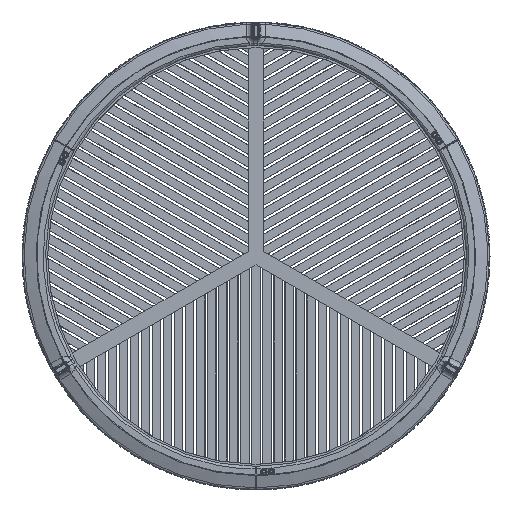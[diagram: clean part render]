
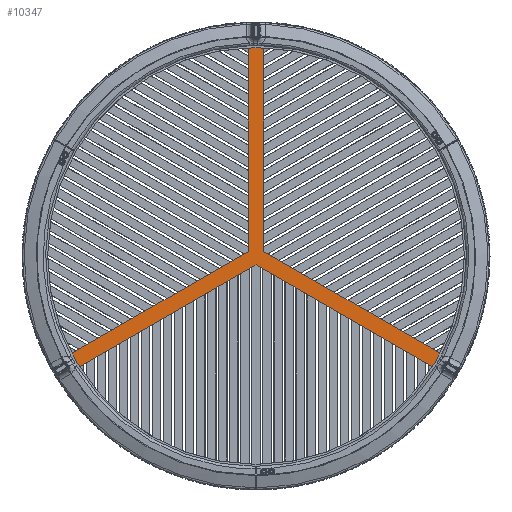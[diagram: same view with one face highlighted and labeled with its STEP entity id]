
A CAD part, front view. The second image highlights one B-rep face of the part: STEP entity #10347.
In plain terms, the highlighted planar face has unit normal (0, -1, 0).
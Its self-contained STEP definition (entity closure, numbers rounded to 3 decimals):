
#236 = VERTEX_POINT ( 'NONE', #186245 ) ;
#3855 = CARTESIAN_POINT ( 'NONE',  ( -354.686, -5., -187.458 ) ) ;
#3922 = LINE ( 'NONE', #68158, #17964 ) ;
#4316 = CIRCLE ( 'NONE', #98393, 401.177 ) ;
#7028 = DIRECTION ( 'NONE',  ( 0.866, 0., -0.5 ) ) ;
#7886 = PLANE ( 'NONE',  #57065 ) ;
#10347 = ADVANCED_FACE ( 'NONE', ( #58433 ), #7886, .F. ) ;
#11666 = CARTESIAN_POINT ( 'NONE',  ( 15., -5., 0. ) ) ;
#13633 = VERTEX_POINT ( 'NONE', #14274 ) ;
#14274 = CARTESIAN_POINT ( 'NONE',  ( 339.686, -5., -213.438 ) ) ;
#14979 = EDGE_CURVE ( 'NONE', #87675, #136651, #168410, .T. ) ;
#15134 = EDGE_LOOP ( 'NONE', ( #122606, #71100, #159287, #208068, #40295, #53963, #164230, #29310, #172118, #44665 ) ) ;
#17964 = VECTOR ( 'NONE', #7028, 1000. ) ;
#20699 = VECTOR ( 'NONE', #204023, 1000. ) ;
#22324 = LINE ( 'NONE', #104363, #174081 ) ;
#27345 = CARTESIAN_POINT ( 'NONE',  ( 7.5, -5., -12.99 ) ) ;
#29218 = CARTESIAN_POINT ( 'NONE',  ( -7.5, -5., 12.99 ) ) ;
#29310 = ORIENTED_EDGE ( 'NONE', *, *, #33080, .T. ) ;
#33080 = EDGE_CURVE ( 'NONE', #67874, #149686, #42253, .T. ) ;
#33420 = DIRECTION ( 'NONE',  ( 0., -1., 0. ) ) ;
#40295 = ORIENTED_EDGE ( 'NONE', *, *, #69776, .F. ) ;
#42253 = CIRCLE ( 'NONE', #82107, 401.177 ) ;
#44665 = ORIENTED_EDGE ( 'NONE', *, *, #70340, .T. ) ;
#46964 = VERTEX_POINT ( 'NONE', #68825 ) ;
#51936 = CARTESIAN_POINT ( 'NONE',  ( -15., -5., 400.896 ) ) ;
#53963 = ORIENTED_EDGE ( 'NONE', *, *, #14979, .T. ) ;
#57065 = AXIS2_PLACEMENT_3D ( 'NONE', #122557, #155116, #186685 ) ;
#58433 = FACE_OUTER_BOUND ( 'NONE', #15134, .T. ) ;
#67874 = VERTEX_POINT ( 'NONE', #148176 ) ;
#68158 = CARTESIAN_POINT ( 'NONE',  ( -7.5, -5., -12.99 ) ) ;
#68825 = CARTESIAN_POINT ( 'NONE',  ( -15., -5., 8.66 ) ) ;
#69776 = EDGE_CURVE ( 'NONE', #87675, #202183, #98509, .T. ) ;
#70340 = EDGE_CURVE ( 'NONE', #46964, #153880, #107073, .T. ) ;
#71100 = ORIENTED_EDGE ( 'NONE', *, *, #106060, .F. ) ;
#73881 = DIRECTION ( 'NONE',  ( 0., 0., 1. ) ) ;
#75243 = DIRECTION ( 'NONE',  ( 0., -1., 0. ) ) ;
#81980 = CARTESIAN_POINT ( 'NONE',  ( 15., -5., 400.896 ) ) ;
#82107 = AXIS2_PLACEMENT_3D ( 'NONE', #176475, #33420, #130146 ) ;
#87675 = VERTEX_POINT ( 'NONE', #114924 ) ;
#97255 = CARTESIAN_POINT ( 'NONE',  ( 0., -5., -17.321 ) ) ;
#98131 = EDGE_CURVE ( 'NONE', #46964, #149686, #22324, .T. ) ;
#98393 = AXIS2_PLACEMENT_3D ( 'NONE', #134874, #182199, #99241 ) ;
#98509 = LINE ( 'NONE', #193151, #129240 ) ;
#99241 = DIRECTION ( 'NONE',  ( 0., 0., 1. ) ) ;
#104363 = CARTESIAN_POINT ( 'NONE',  ( -15., -5., 0. ) ) ;
#106060 = EDGE_CURVE ( 'NONE', #150908, #236, #138847, .T. ) ;
#107073 = LINE ( 'NONE', #29218, #196447 ) ;
#107202 = AXIS2_PLACEMENT_3D ( 'NONE', #123637, #122585, #139395 ) ;
#114924 = CARTESIAN_POINT ( 'NONE',  ( 15., -5., 8.66 ) ) ;
#117034 = EDGE_CURVE ( 'NONE', #150908, #13633, #3922, .T. ) ;
#122557 = CARTESIAN_POINT ( 'NONE',  ( 0., -5., 0. ) ) ;
#122585 = DIRECTION ( 'NONE',  ( 0., -1., 0. ) ) ;
#122606 = ORIENTED_EDGE ( 'NONE', *, *, #202373, .T. ) ;
#123637 = CARTESIAN_POINT ( 'NONE',  ( 0., -5., 0. ) ) ;
#129240 = VECTOR ( 'NONE', #181511, 1000. ) ;
#130146 = DIRECTION ( 'NONE',  ( 0., 0., 1. ) ) ;
#134874 = CARTESIAN_POINT ( 'NONE',  ( 0., -5., 0. ) ) ;
#136651 = VERTEX_POINT ( 'NONE', #81980 ) ;
#138387 = EDGE_CURVE ( 'NONE', #13633, #202183, #197812, .T. ) ;
#138847 = LINE ( 'NONE', #27345, #20699 ) ;
#139395 = DIRECTION ( 'NONE',  ( 0., 0., 1. ) ) ;
#139911 = CIRCLE ( 'NONE', #170109, 401.177 ) ;
#148176 = CARTESIAN_POINT ( 'NONE',  ( 0., -5., 401.177 ) ) ;
#149686 = VERTEX_POINT ( 'NONE', #51936 ) ;
#150908 = VERTEX_POINT ( 'NONE', #97255 ) ;
#153880 = VERTEX_POINT ( 'NONE', #3855 ) ;
#155116 = DIRECTION ( 'NONE',  ( 0., 1., 0. ) ) ;
#156453 = DIRECTION ( 'NONE',  ( -0.866, 0., -0.5 ) ) ;
#157599 = EDGE_CURVE ( 'NONE', #136651, #67874, #4316, .T. ) ;
#159287 = ORIENTED_EDGE ( 'NONE', *, *, #117034, .T. ) ;
#161574 = CARTESIAN_POINT ( 'NONE',  ( 354.686, -5., -187.458 ) ) ;
#164230 = ORIENTED_EDGE ( 'NONE', *, *, #157599, .T. ) ;
#167774 = CARTESIAN_POINT ( 'NONE',  ( 0., -5., 0. ) ) ;
#168410 = LINE ( 'NONE', #11666, #202464 ) ;
#170109 = AXIS2_PLACEMENT_3D ( 'NONE', #167774, #75243, #170940 ) ;
#170940 = DIRECTION ( 'NONE',  ( 0., 0., 1. ) ) ;
#171557 = DIRECTION ( 'NONE',  ( 0., 0., 1. ) ) ;
#172118 = ORIENTED_EDGE ( 'NONE', *, *, #98131, .F. ) ;
#174081 = VECTOR ( 'NONE', #73881, 1000. ) ;
#176475 = CARTESIAN_POINT ( 'NONE',  ( 0., -5., 0. ) ) ;
#181511 = DIRECTION ( 'NONE',  ( 0.866, 0., -0.5 ) ) ;
#182199 = DIRECTION ( 'NONE',  ( 0., -1., 0. ) ) ;
#186245 = CARTESIAN_POINT ( 'NONE',  ( -339.686, -5., -213.438 ) ) ;
#186685 = DIRECTION ( 'NONE',  ( 0., 0., 1. ) ) ;
#193151 = CARTESIAN_POINT ( 'NONE',  ( 7.5, -5., 12.99 ) ) ;
#196447 = VECTOR ( 'NONE', #156453, 1000. ) ;
#197812 = CIRCLE ( 'NONE', #107202, 401.177 ) ;
#202183 = VERTEX_POINT ( 'NONE', #161574 ) ;
#202373 = EDGE_CURVE ( 'NONE', #153880, #236, #139911, .T. ) ;
#202464 = VECTOR ( 'NONE', #171557, 1000. ) ;
#204023 = DIRECTION ( 'NONE',  ( -0.866, 0., -0.5 ) ) ;
#208068 = ORIENTED_EDGE ( 'NONE', *, *, #138387, .T. ) ;
